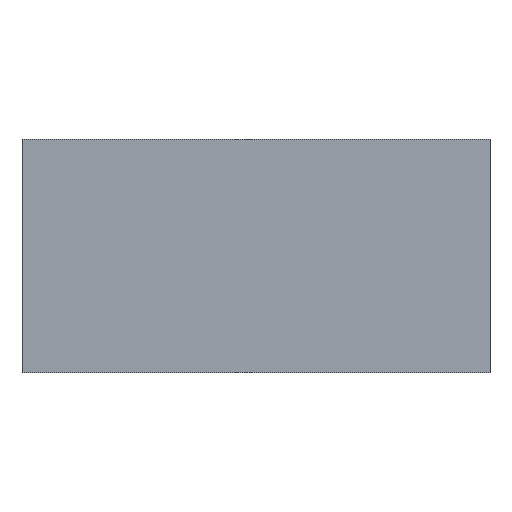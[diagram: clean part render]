
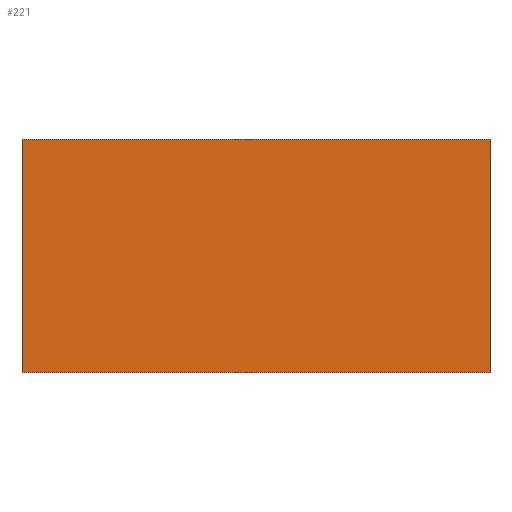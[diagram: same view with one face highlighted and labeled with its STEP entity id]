
A CAD part, front view. The second image highlights one B-rep face of the part: STEP entity #221.
In plain terms, the highlighted planar face has unit normal (0, -1, 0).
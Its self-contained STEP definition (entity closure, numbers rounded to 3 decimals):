
#28 = DIRECTION ( 'NONE',  ( 0., 0., -1. ) ) ;
#30 = LINE ( 'NONE', #52, #195 ) ;
#33 = LINE ( 'NONE', #120, #187 ) ;
#49 = AXIS2_PLACEMENT_3D ( 'NONE', #89, #191, #51 ) ;
#51 = DIRECTION ( 'NONE',  ( 0., 0., 1. ) ) ;
#52 = CARTESIAN_POINT ( 'NONE',  ( 24., -291., 12. ) ) ;
#54 = LINE ( 'NONE', #69, #135 ) ;
#64 = ORIENTED_EDGE ( 'NONE', *, *, #226, .T. ) ;
#69 = CARTESIAN_POINT ( 'NONE',  ( -24., -291., 12. ) ) ;
#74 = VERTEX_POINT ( 'NONE', #214 ) ;
#77 = VERTEX_POINT ( 'NONE', #96 ) ;
#80 = ORIENTED_EDGE ( 'NONE', *, *, #179, .T. ) ;
#84 = DIRECTION ( 'NONE',  ( 1., 0., 0. ) ) ;
#88 = CARTESIAN_POINT ( 'NONE',  ( 24., -291., -12. ) ) ;
#89 = CARTESIAN_POINT ( 'NONE',  ( -24., -291., 12. ) ) ;
#96 = CARTESIAN_POINT ( 'NONE',  ( -24., -291., 12. ) ) ;
#102 = PLANE ( 'NONE',  #49 ) ;
#109 = EDGE_CURVE ( 'NONE', #74, #163, #30, .T. ) ;
#118 = CARTESIAN_POINT ( 'NONE',  ( -24., -291., 12. ) ) ;
#120 = CARTESIAN_POINT ( 'NONE',  ( -24., -291., -12. ) ) ;
#128 = EDGE_CURVE ( 'NONE', #77, #74, #54, .T. ) ;
#132 = ORIENTED_EDGE ( 'NONE', *, *, #128, .F. ) ;
#134 = CARTESIAN_POINT ( 'NONE',  ( -24., -291., -12. ) ) ;
#135 = VECTOR ( 'NONE', #170, 1000. ) ;
#150 = VERTEX_POINT ( 'NONE', #134 ) ;
#163 = VERTEX_POINT ( 'NONE', #88 ) ;
#170 = DIRECTION ( 'NONE',  ( 1., 0., 0. ) ) ;
#179 = EDGE_CURVE ( 'NONE', #150, #163, #33, .T. ) ;
#187 = VECTOR ( 'NONE', #84, 1000. ) ;
#189 = DIRECTION ( 'NONE',  ( 0., 0., -1. ) ) ;
#191 = DIRECTION ( 'NONE',  ( 0., 1., 0. ) ) ;
#195 = VECTOR ( 'NONE', #189, 1000. ) ;
#204 = EDGE_LOOP ( 'NONE', ( #80, #217, #132, #64 ) ) ;
#205 = VECTOR ( 'NONE', #28, 1000. ) ;
#207 = LINE ( 'NONE', #118, #205 ) ;
#214 = CARTESIAN_POINT ( 'NONE',  ( 24., -291., 12. ) ) ;
#217 = ORIENTED_EDGE ( 'NONE', *, *, #109, .F. ) ;
#221 = ADVANCED_FACE ( 'NONE', ( #227 ), #102, .F. ) ;
#226 = EDGE_CURVE ( 'NONE', #77, #150, #207, .T. ) ;
#227 = FACE_OUTER_BOUND ( 'NONE', #204, .T. ) ;
